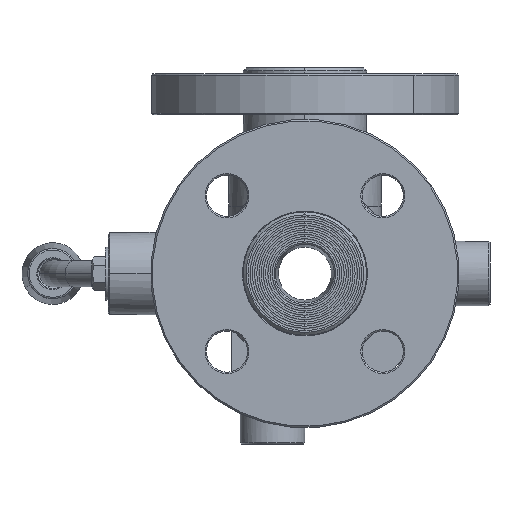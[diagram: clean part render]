
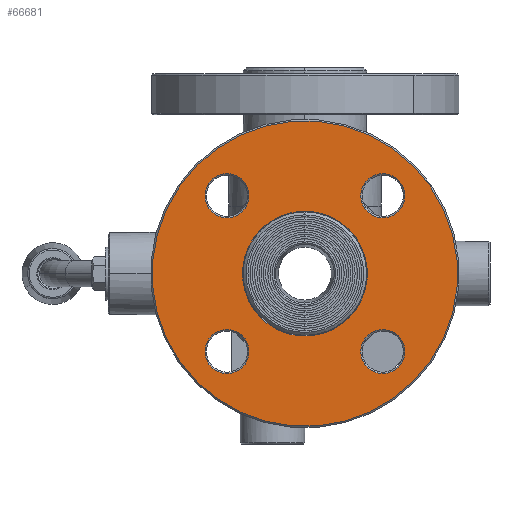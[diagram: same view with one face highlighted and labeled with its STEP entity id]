
A CAD part, left-side view. The second image highlights one B-rep face of the part: STEP entity #66681.
In plain terms, the highlighted planar face has unit normal (-1, 0, 0).
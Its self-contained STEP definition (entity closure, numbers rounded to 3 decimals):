
#22005=CARTESIAN_POINT('',(-68.,0.,0.));
#22006=DIRECTION('',(-1.,0.,0.));
#22007=DIRECTION('',(0.,0.707,0.707));
#22008=AXIS2_PLACEMENT_3D('',#22005,#22006,#22007);
#22013=CARTESIAN_POINT('',(-68.,0.,0.));
#22014=DIRECTION('',(-1.,0.,0.));
#22015=DIRECTION('',(0.,-0.707,-0.707));
#22016=AXIS2_PLACEMENT_3D('',#22013,#22014,#22015);
#22021=CARTESIAN_POINT('',(-68.,0.,0.));
#22022=DIRECTION('',(-1.,0.,0.));
#22023=DIRECTION('',(0.,0.707,0.707));
#22024=AXIS2_PLACEMENT_3D('',#22021,#22022,#22023);
#22029=CARTESIAN_POINT('',(-68.,0.,0.));
#22030=DIRECTION('',(-1.,0.,0.));
#22031=DIRECTION('',(0.,-0.707,-0.707));
#22032=AXIS2_PLACEMENT_3D('',#22029,#22030,#22031);
#22203=CARTESIAN_POINT('',(-68.,-26.517,-26.517));
#22204=DIRECTION('',(1.,0.,0.));
#22205=DIRECTION('',(0.,-0.707,-0.707));
#22206=AXIS2_PLACEMENT_3D('',#22203,#22204,#22205);
#22233=CARTESIAN_POINT('',(-68.,-26.517,-26.517));
#22234=DIRECTION('',(1.,0.,0.));
#22235=DIRECTION('',(0.,0.707,0.707));
#22236=AXIS2_PLACEMENT_3D('',#22233,#22234,#22235);
#22309=CARTESIAN_POINT('',(-68.,26.517,-26.517));
#22310=DIRECTION('',(1.,0.,0.));
#22311=DIRECTION('',(0.,-0.707,-0.707));
#22312=AXIS2_PLACEMENT_3D('',#22309,#22310,#22311);
#22339=CARTESIAN_POINT('',(-68.,26.517,-26.517));
#22340=DIRECTION('',(1.,0.,0.));
#22341=DIRECTION('',(0.,0.707,0.707));
#22342=AXIS2_PLACEMENT_3D('',#22339,#22340,#22341);
#22415=CARTESIAN_POINT('',(-68.,26.517,26.517));
#22416=DIRECTION('',(1.,0.,0.));
#22417=DIRECTION('',(0.,-0.707,-0.707));
#22418=AXIS2_PLACEMENT_3D('',#22415,#22416,#22417);
#22431=CARTESIAN_POINT('',(-68.,26.517,26.517));
#22432=DIRECTION('',(1.,0.,0.));
#22433=DIRECTION('',(0.,0.707,0.707));
#22434=AXIS2_PLACEMENT_3D('',#22431,#22432,#22433);
#22521=CARTESIAN_POINT('',(-68.,-26.517,26.517));
#22522=DIRECTION('',(1.,0.,0.));
#22523=DIRECTION('',(0.,-0.707,-0.707));
#22524=AXIS2_PLACEMENT_3D('',#22521,#22522,#22523);
#22551=CARTESIAN_POINT('',(-68.,-26.517,26.517));
#22552=DIRECTION('',(1.,0.,0.));
#22553=DIRECTION('',(0.,0.707,0.707));
#22554=AXIS2_PLACEMENT_3D('',#22551,#22552,#22553);
#46287=CARTESIAN_POINT('',(-68.,-21.213,31.82));
#46288=CARTESIAN_POINT('',(-68.,-31.82,21.213));
#46289=VERTEX_POINT('',#46287);
#46290=VERTEX_POINT('',#46288);
#46295=CARTESIAN_POINT('',(-68.,21.213,21.213));
#46296=CARTESIAN_POINT('',(-68.,31.82,31.82));
#46297=VERTEX_POINT('',#46295);
#46298=VERTEX_POINT('',#46296);
#46303=CARTESIAN_POINT('',(-68.,31.82,-21.213));
#46304=CARTESIAN_POINT('',(-68.,21.213,-31.82));
#46305=VERTEX_POINT('',#46303);
#46306=VERTEX_POINT('',#46304);
#46311=CARTESIAN_POINT('',(-68.,-21.213,-21.213));
#46312=CARTESIAN_POINT('',(-68.,-31.82,-31.82));
#46313=VERTEX_POINT('',#46311);
#46314=VERTEX_POINT('',#46312);
#46351=CARTESIAN_POINT('',(-68.,15.026,15.026));
#46352=CARTESIAN_POINT('',(-68.,-15.026,-15.026));
#46353=VERTEX_POINT('',#46351);
#46354=VERTEX_POINT('',#46352);
#46367=CARTESIAN_POINT('',(-68.,36.77,36.77));
#46368=CARTESIAN_POINT('',(-68.,-36.77,-36.77));
#46369=VERTEX_POINT('',#46367);
#46370=VERTEX_POINT('',#46368);
#66642=CARTESIAN_POINT('',(-68.,0.,0.));
#66643=DIRECTION('',(-1.,0.,0.));
#66644=DIRECTION('',(0.,-0.707,-0.707));
#66645=AXIS2_PLACEMENT_3D('',#66642,#66643,#66644);
#66646=PLANE('',#66645);
#66648=ORIENTED_EDGE('',*,*,#66647,.F.);
#66650=ORIENTED_EDGE('',*,*,#66649,.F.);
#66651=EDGE_LOOP('',(#66648,#66650));
#66652=FACE_OUTER_BOUND('',#66651,.F.);
#66654=ORIENTED_EDGE('',*,*,#66653,.F.);
#66656=ORIENTED_EDGE('',*,*,#66655,.F.);
#66657=EDGE_LOOP('',(#66654,#66656));
#66658=FACE_BOUND('',#66657,.F.);
#66660=ORIENTED_EDGE('',*,*,#66659,.F.);
#66662=ORIENTED_EDGE('',*,*,#66661,.F.);
#66663=EDGE_LOOP('',(#66660,#66662));
#66664=FACE_BOUND('',#66663,.F.);
#66666=ORIENTED_EDGE('',*,*,#66665,.F.);
#66668=ORIENTED_EDGE('',*,*,#66667,.F.);
#66669=EDGE_LOOP('',(#66666,#66668));
#66670=FACE_BOUND('',#66669,.F.);
#66672=ORIENTED_EDGE('',*,*,#66671,.F.);
#66674=ORIENTED_EDGE('',*,*,#66673,.F.);
#66675=EDGE_LOOP('',(#66672,#66674));
#66676=FACE_BOUND('',#66675,.F.);
#66677=ORIENTED_EDGE('',*,*,#66635,.T.);
#66678=ORIENTED_EDGE('',*,*,#66594,.T.);
#66679=EDGE_LOOP('',(#66677,#66678));
#66680=FACE_BOUND('',#66679,.F.);
#66681=ADVANCED_FACE('',(#66652,#66658,#66664,#66670,#66676,#66680),#66646,.T.);
#22009=CIRCLE('',#22008,52.);
#22017=CIRCLE('',#22016,52.);
#22025=CIRCLE('',#22024,21.25);
#22033=CIRCLE('',#22032,21.25);
#22207=CIRCLE('',#22206,7.5);
#22237=CIRCLE('',#22236,7.5);
#22313=CIRCLE('',#22312,7.5);
#22343=CIRCLE('',#22342,7.5);
#22419=CIRCLE('',#22418,7.5);
#22435=CIRCLE('',#22434,7.5);
#22525=CIRCLE('',#22524,7.5);
#22555=CIRCLE('',#22554,7.5);
#66594=EDGE_CURVE('',#46354,#46353,#22033,.T.);
#66635=EDGE_CURVE('',#46353,#46354,#22025,.T.);
#66647=EDGE_CURVE('',#46369,#46370,#22009,.T.);
#66649=EDGE_CURVE('',#46370,#46369,#22017,.T.);
#66653=EDGE_CURVE('',#46314,#46313,#22207,.T.);
#66655=EDGE_CURVE('',#46313,#46314,#22237,.T.);
#66659=EDGE_CURVE('',#46306,#46305,#22313,.T.);
#66661=EDGE_CURVE('',#46305,#46306,#22343,.T.);
#66665=EDGE_CURVE('',#46297,#46298,#22419,.T.);
#66667=EDGE_CURVE('',#46298,#46297,#22435,.T.);
#66671=EDGE_CURVE('',#46290,#46289,#22525,.T.);
#66673=EDGE_CURVE('',#46289,#46290,#22555,.T.);
